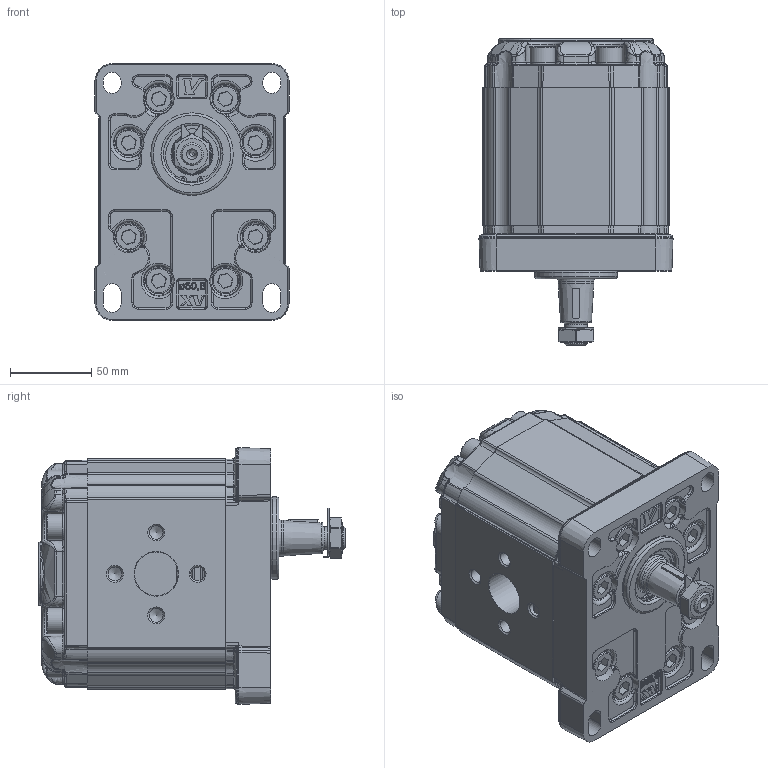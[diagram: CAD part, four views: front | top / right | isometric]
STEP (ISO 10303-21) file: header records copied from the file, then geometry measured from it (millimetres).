
FILE_DESCRIPTION( ( 'Unknown' ), '1' );
FILE_NAME( 'P:/montaggio_easy/output/STP/X3U7801ABBA.stp', 'Unknown', ( 'Unknown' ), ( 'Unknown' ), 'PSStep 14.0', 'Unknown', ' ' );
FILE_SCHEMA( ( 'AUTOMOTIVE_DESIGN { 1 0 10303 214 1 1 1 1 }' ) );
Length unit declared in the file: millimetre
Products named in the file (5): Assem1; X3U01; 3A; X3BBH85; XU301-A
Bounding box: 119.47 x 189 x 158.07 mm (x, y, z)
Surface area: 409703.7 mm2
Topology: 8 solids, 42 shells, 5816 faces, 15092 edges, 9580 vertices
Faces by surface type: bspline 2190, plane 1812, cylinder 1252, torus 228, cone 176, extrusion 96, sphere 56, revolution 4, offset 2
Full cylindrical faces by diameter (mm): 2 x4, 8.376 x16, 10 x32, 14 x4, 15.8 x32, 16 x32, 22 x2, 24.98 x2, 25.5 x2, 26.8 x2, 27 x4, 29.425 x2, 31.42 x2, 33.304 x2, 34.7 x2, 35 x4, 35.2 x2, 37 x2, 50.8 x2
Entity records: 138914 total; most frequent: CARTESIAN_POINT 58590, ORIENTED_EDGE 14542, EDGE_CURVE 7271, DIRECTION 7263, VERTEX_POINT 4717, B_SPLINE_CURVE_WITH_KNOTS 3871, EDGE_LOOP 3226, FACE_OUTER_BOUND 3025
